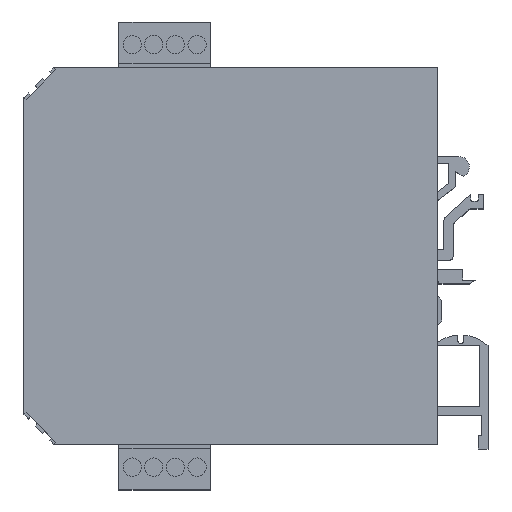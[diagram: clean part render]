
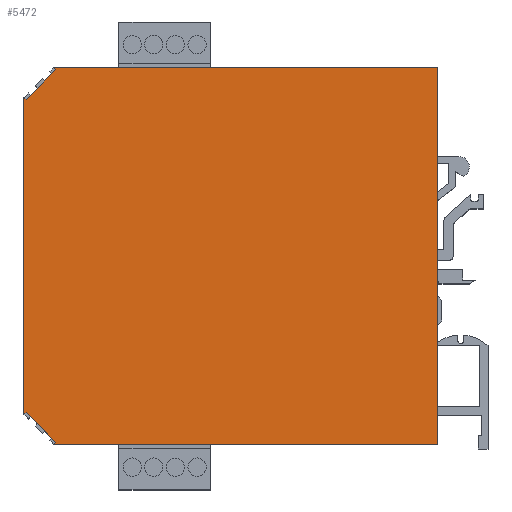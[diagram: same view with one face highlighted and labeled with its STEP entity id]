
A CAD part, top view. The second image highlights one B-rep face of the part: STEP entity #5472.
In plain terms, the highlighted planar face has unit normal (0, 0, 1).
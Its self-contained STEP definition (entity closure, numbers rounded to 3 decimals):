
#311 = EDGE_CURVE ( 'NONE', #43950, #30440, #40335, .T. ) ;
#1107 = VECTOR ( 'NONE', #40361, 1000. ) ;
#2471 = CARTESIAN_POINT ( 'NONE',  ( -14.389, 105.454, 86.544 ) ) ;
#2865 = VERTEX_POINT ( 'NONE', #29128 ) ;
#3147 = CARTESIAN_POINT ( 'NONE',  ( 69.121, 23.393, 86.544 ) ) ;
#3463 = ORIENTED_EDGE ( 'NONE', *, *, #19211, .T. ) ;
#4275 = CARTESIAN_POINT ( 'NONE',  ( -21.379, 29.893, 86.544 ) ) ;
#5189 = CARTESIAN_POINT ( 'NONE',  ( -21.379, 30.135, 86.544 ) ) ;
#5472 = ADVANCED_FACE ( 'NONE', ( #50902 ), #45810, .T. ) ;
#5567 = DIRECTION ( 'NONE',  ( 0., 0., 1. ) ) ;
#6364 = ORIENTED_EDGE ( 'NONE', *, *, #32718, .F. ) ;
#6833 = CARTESIAN_POINT ( 'NONE',  ( -21.379, 29.893, 86.544 ) ) ;
#6900 = ORIENTED_EDGE ( 'NONE', *, *, #15125, .T. ) ;
#6974 = EDGE_CURVE ( 'NONE', #62489, #20496, #26667, .T. ) ;
#8294 = VERTEX_POINT ( 'NONE', #66436 ) ;
#8478 = ORIENTED_EDGE ( 'NONE', *, *, #60818, .T. ) ;
#10045 = CARTESIAN_POINT ( 'NONE',  ( -21.379, 99.393, 86.544 ) ) ;
#11356 = DIRECTION ( 'NONE',  ( 1., 0., 0. ) ) ;
#11489 = CARTESIAN_POINT ( 'NONE',  ( -14.684, 105.719, 86.544 ) ) ;
#12358 = VECTOR ( 'NONE', #71670, 1000. ) ;
#12431 = CARTESIAN_POINT ( 'NONE',  ( -21.209, 99.223, 86.544 ) ) ;
#12774 = CARTESIAN_POINT ( 'NONE',  ( -21.279, 99.152, 86.544 ) ) ;
#13295 = ORIENTED_EDGE ( 'NONE', *, *, #27788, .T. ) ;
#13564 = VERTEX_POINT ( 'NONE', #2471 ) ;
#13757 = LINE ( 'NONE', #30515, #64672 ) ;
#13861 = VERTEX_POINT ( 'NONE', #62517 ) ;
#15125 = EDGE_CURVE ( 'NONE', #8294, #68505, #27996, .T. ) ;
#15657 = DIRECTION ( 'NONE',  ( 1., 0., 0. ) ) ;
#16535 = EDGE_CURVE ( 'NONE', #32867, #35956, #50524, .T. ) ;
#16749 = CARTESIAN_POINT ( 'NONE',  ( 69.121, 105.893, 86.544 ) ) ;
#17037 = CARTESIAN_POINT ( 'NONE',  ( -14.389, 23.833, 86.544 ) ) ;
#17558 = AXIS2_PLACEMENT_3D ( 'NONE', #33237, #66737, #11356 ) ;
#17620 = AXIS2_PLACEMENT_3D ( 'NONE', #68294, #35141, #56633 ) ;
#17926 = ORIENTED_EDGE ( 'NONE', *, *, #6974, .T. ) ;
#19211 = EDGE_CURVE ( 'NONE', #30440, #52891, #27309, .T. ) ;
#19704 = DIRECTION ( 'NONE',  ( 0., 0., 1. ) ) ;
#20032 = ORIENTED_EDGE ( 'NONE', *, *, #33858, .F. ) ;
#20161 = ORIENTED_EDGE ( 'NONE', *, *, #24467, .T. ) ;
#20496 = VERTEX_POINT ( 'NONE', #50846 ) ;
#21713 = DIRECTION ( 'NONE',  ( 0.707, -0.707, 0. ) ) ;
#22138 = CARTESIAN_POINT ( 'NONE',  ( 69.121, 105.893, 86.544 ) ) ;
#22627 = AXIS2_PLACEMENT_3D ( 'NONE', #12774, #19704, #52092 ) ;
#23253 = CARTESIAN_POINT ( 'NONE',  ( 23.871, 64.643, 86.544 ) ) ;
#24154 = ORIENTED_EDGE ( 'NONE', *, *, #29019, .T. ) ;
#24467 = EDGE_CURVE ( 'NONE', #50808, #32867, #13757, .T. ) ;
#24841 = ORIENTED_EDGE ( 'NONE', *, *, #58443, .T. ) ;
#26667 = CIRCLE ( 'NONE', #45257, 0.1 ) ;
#27293 = CARTESIAN_POINT ( 'NONE',  ( -20.884, 30.388, 86.544 ) ) ;
#27309 = LINE ( 'NONE', #66268, #63931 ) ;
#27607 = LINE ( 'NONE', #49813, #48975 ) ;
#27788 = EDGE_CURVE ( 'NONE', #52891, #71336, #27607, .T. ) ;
#27996 = CIRCLE ( 'NONE', #17558, 0.1 ) ;
#28866 = DIRECTION ( 'NONE',  ( 1., 0., 0. ) ) ;
#29019 = EDGE_CURVE ( 'NONE', #35956, #43950, #49023, .T. ) ;
#29128 = CARTESIAN_POINT ( 'NONE',  ( -20.884, 98.898, 86.544 ) ) ;
#29892 = AXIS2_PLACEMENT_3D ( 'NONE', #55486, #5567, #28866 ) ;
#30440 = VERTEX_POINT ( 'NONE', #64287 ) ;
#30515 = CARTESIAN_POINT ( 'NONE',  ( -20.884, 30.388, 86.544 ) ) ;
#31539 = VECTOR ( 'NONE', #54941, 1000. ) ;
#32690 = CARTESIAN_POINT ( 'NONE',  ( -14.684, 23.568, 86.544 ) ) ;
#32718 = EDGE_CURVE ( 'NONE', #2865, #13564, #69336, .T. ) ;
#32867 = VERTEX_POINT ( 'NONE', #47572 ) ;
#33237 = CARTESIAN_POINT ( 'NONE',  ( -14.618, 105.793, 86.544 ) ) ;
#33781 = DIRECTION ( 'NONE',  ( 0., 1., 0. ) ) ;
#33858 = EDGE_CURVE ( 'NONE', #62577, #2865, #71622, .T. ) ;
#33910 = VECTOR ( 'NONE', #21713, 1000. ) ;
#35141 = DIRECTION ( 'NONE',  ( 0., 0., 1. ) ) ;
#35956 = VERTEX_POINT ( 'NONE', #32690 ) ;
#36559 = DIRECTION ( 'NONE',  ( 0.704, 0.71, 0. ) ) ;
#40316 = LINE ( 'NONE', #22138, #41289 ) ;
#40335 = CIRCLE ( 'NONE', #29892, 0.1 ) ;
#40361 = DIRECTION ( 'NONE',  ( 0.707, 0.707, 0. ) ) ;
#40571 = ORIENTED_EDGE ( 'NONE', *, *, #311, .T. ) ;
#41289 = VECTOR ( 'NONE', #67276, 1000. ) ;
#41741 = CARTESIAN_POINT ( 'NONE',  ( -14.389, 105.454, 86.544 ) ) ;
#43950 = VERTEX_POINT ( 'NONE', #46856 ) ;
#44735 = DIRECTION ( 'NONE',  ( 0., 0., 1. ) ) ;
#45257 = AXIS2_PLACEMENT_3D ( 'NONE', #59246, #58530, #70208 ) ;
#45810 = PLANE ( 'NONE',  #53332 ) ;
#45857 = CIRCLE ( 'NONE', #22627, 0.1 ) ;
#46856 = CARTESIAN_POINT ( 'NONE',  ( -14.718, 23.493, 86.544 ) ) ;
#47554 = LINE ( 'NONE', #41741, #52710 ) ;
#47572 = CARTESIAN_POINT ( 'NONE',  ( -14.389, 23.833, 86.544 ) ) ;
#48975 = VECTOR ( 'NONE', #33781, 1000. ) ;
#49023 = CIRCLE ( 'NONE', #17620, 0.1 ) ;
#49813 = CARTESIAN_POINT ( 'NONE',  ( 69.121, 23.393, 86.544 ) ) ;
#50524 = LINE ( 'NONE', #17037, #31539 ) ;
#50808 = VERTEX_POINT ( 'NONE', #27293 ) ;
#50846 = CARTESIAN_POINT ( 'NONE',  ( -21.209, 30.064, 86.544 ) ) ;
#50902 = FACE_OUTER_BOUND ( 'NONE', #58385, .T. ) ;
#51666 = ORIENTED_EDGE ( 'NONE', *, *, #16535, .T. ) ;
#51991 = LINE ( 'NONE', #6833, #1107 ) ;
#52092 = DIRECTION ( 'NONE',  ( 1., 0., 0. ) ) ;
#52656 = DIRECTION ( 'NONE',  ( -0.745, 0.667, 0. ) ) ;
#52710 = VECTOR ( 'NONE', #52656, 1000. ) ;
#52891 = VERTEX_POINT ( 'NONE', #3147 ) ;
#53089 = DIRECTION ( 'NONE',  ( 0.704, -0.71, 0. ) ) ;
#53281 = CARTESIAN_POINT ( 'NONE',  ( -20.884, 98.898, 86.544 ) ) ;
#53291 = ORIENTED_EDGE ( 'NONE', *, *, #61034, .T. ) ;
#53332 = AXIS2_PLACEMENT_3D ( 'NONE', #23253, #44735, #68041 ) ;
#54941 = DIRECTION ( 'NONE',  ( -0.745, -0.667, 0. ) ) ;
#55261 = LINE ( 'NONE', #4275, #12358 ) ;
#55486 = CARTESIAN_POINT ( 'NONE',  ( -14.618, 23.493, 86.544 ) ) ;
#55945 = EDGE_CURVE ( 'NONE', #13564, #68505, #47554, .T. ) ;
#56633 = DIRECTION ( 'NONE',  ( 1., 0., 0. ) ) ;
#58385 = EDGE_LOOP ( 'NONE', ( #51666, #24154, #40571, #3463, #13295, #8478, #6900, #65006, #6364, #20032, #24841, #53291, #17926, #59123, #20161 ) ) ;
#58443 = EDGE_CURVE ( 'NONE', #62577, #13861, #45857, .T. ) ;
#58530 = DIRECTION ( 'NONE',  ( 0., 0., 1. ) ) ;
#59123 = ORIENTED_EDGE ( 'NONE', *, *, #69654, .T. ) ;
#59246 = CARTESIAN_POINT ( 'NONE',  ( -21.279, 30.135, 86.544 ) ) ;
#60818 = EDGE_CURVE ( 'NONE', #71336, #8294, #40316, .T. ) ;
#61034 = EDGE_CURVE ( 'NONE', #13861, #62489, #55261, .T. ) ;
#61069 = VECTOR ( 'NONE', #36559, 1000. ) ;
#62489 = VERTEX_POINT ( 'NONE', #5189 ) ;
#62517 = CARTESIAN_POINT ( 'NONE',  ( -21.379, 99.152, 86.544 ) ) ;
#62577 = VERTEX_POINT ( 'NONE', #12431 ) ;
#63931 = VECTOR ( 'NONE', #15657, 1000. ) ;
#64287 = CARTESIAN_POINT ( 'NONE',  ( -14.618, 23.393, 86.544 ) ) ;
#64672 = VECTOR ( 'NONE', #53089, 1000. ) ;
#65006 = ORIENTED_EDGE ( 'NONE', *, *, #55945, .F. ) ;
#66268 = CARTESIAN_POINT ( 'NONE',  ( 69.121, 23.393, 86.544 ) ) ;
#66436 = CARTESIAN_POINT ( 'NONE',  ( -14.618, 105.893, 86.544 ) ) ;
#66737 = DIRECTION ( 'NONE',  ( 0., 0., 1. ) ) ;
#67276 = DIRECTION ( 'NONE',  ( -1., 0., 0. ) ) ;
#68041 = DIRECTION ( 'NONE',  ( 1., 0., 0. ) ) ;
#68294 = CARTESIAN_POINT ( 'NONE',  ( -14.618, 23.493, 86.544 ) ) ;
#68505 = VERTEX_POINT ( 'NONE', #11489 ) ;
#69336 = LINE ( 'NONE', #53281, #61069 ) ;
#69654 = EDGE_CURVE ( 'NONE', #20496, #50808, #51991, .T. ) ;
#70208 = DIRECTION ( 'NONE',  ( 1., 0., 0. ) ) ;
#71336 = VERTEX_POINT ( 'NONE', #16749 ) ;
#71622 = LINE ( 'NONE', #10045, #33910 ) ;
#71670 = DIRECTION ( 'NONE',  ( 0., -1., 0. ) ) ;
